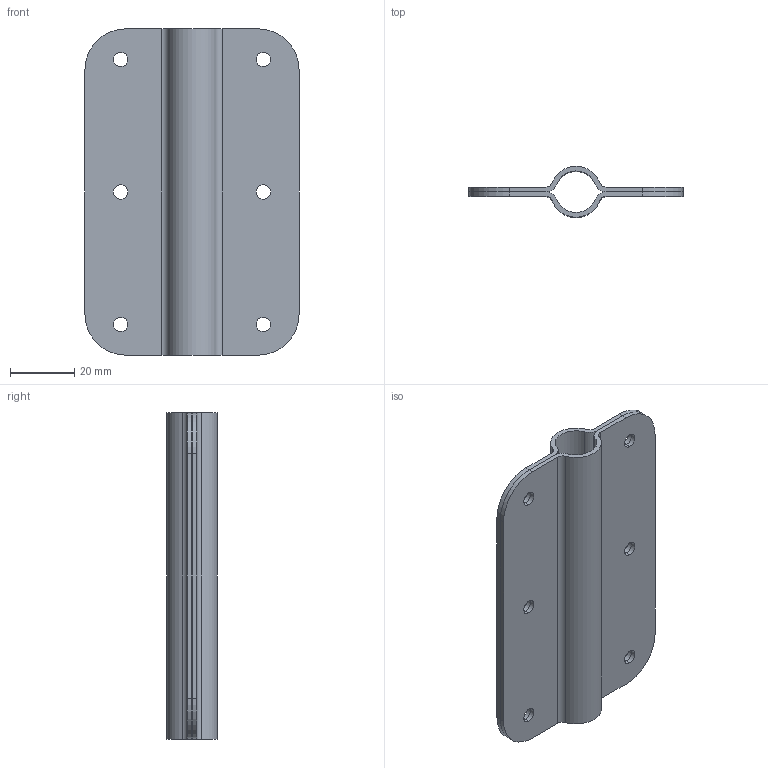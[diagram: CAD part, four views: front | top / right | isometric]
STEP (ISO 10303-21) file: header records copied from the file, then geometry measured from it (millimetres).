
FILE_DESCRIPTION (( 'STEP AP203' ), '1' );
FILE_NAME ('FDPCK-.5-SPLICE-CONNECTOR.step', '2019-09-11T18:20:19', ( 'ydmin' ), ( '' ), 'SwSTEP 2.0', 'SolidWorks 2017', '' );
FILE_SCHEMA (( 'CONFIG_CONTROL_DESIGN' ));
Length unit declared in the file: inch
Products named in the file (1): FDPCK-.5-SPLICE-CONNECTOR
Bounding box: 66.67 x 15.88 x 101.6 mm (x, y, z)
Volume: 20731.3 mm3; surface area: 29588.2 mm2
Topology: 2 solids, 2 shells, 60 faces, 168 edges, 112 vertices
Faces by surface type: cylinder 44, plane 16
Entity records: 2105 total; most frequent: DIRECTION 378, CARTESIAN_POINT 341, ORIENTED_EDGE 336, EDGE_CURVE 168, AXIS2_PLACEMENT_3D 149, VERTEX_POINT 112, CIRCLE 88, EDGE_LOOP 84
